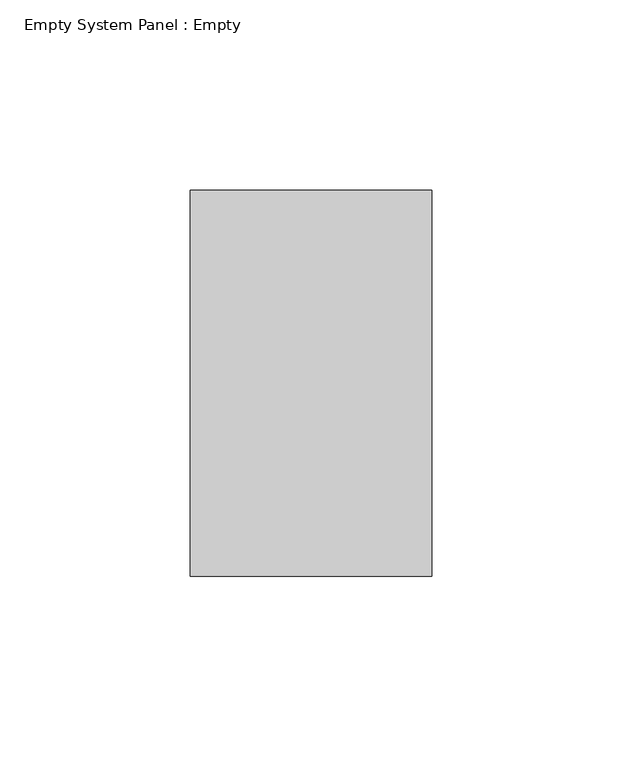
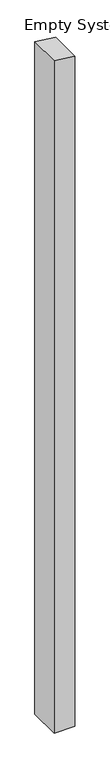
"""IFC4 building model written with IfcOpenShell, lengths in millimetres: plate geometry, Empty System Panel : Empty."""

import ifcopenshell
import ifcopenshell.guid

model = None  # the IFC model being written
_history = None  # IfcOwnerHistory: only IFC2X3 demands one
_inside = {}  # id of a spatial element -> (the spatial element, [elements in it])
_under = {}  # id of a project, library or spatial element -> (it, [spatial elements below it])
_declared = {}  # id of a project -> (the project, [libraries it declares])
_typed = {}  # id of a type object -> (the type object, [elements of that type])
_made_of = {}  # id of a material, layer set ... -> (it, [elements and type objects made of it])


def new_model(schema):
    """Start an empty IFC model of exactly this schema.

    Asked for "IFC4X3", IfcOpenShell would pick the latest addendum, in which some entities
    have other attributes; the version numbers below select the first issue.
    IFC2X3 requires an IfcOwnerHistory on every rooted entity: one is made here for all.
    """
    global model, _history
    if schema == "IFC4X3":
        model = ifcopenshell.file(schema_version=(4, 3, 0, 0))
    else:
        model = ifcopenshell.file(schema=schema)
    _inside.clear()
    _under.clear()
    _declared.clear()
    _typed.clear()
    _made_of.clear()
    _history = None
    if model.schema == "IFC2X3":
        org = make("IfcOrganization", Name="unknown")
        user = make(
            "IfcPersonAndOrganization",
            ThePerson=make("IfcPerson", FamilyName="unknown"),
            TheOrganization=org,
        )
        app = make(
            "IfcApplication",
            ApplicationDeveloper=org,
            Version="unknown",
            ApplicationFullName="unknown",
            ApplicationIdentifier="unknown",
        )
        _history = make(
            "IfcOwnerHistory",
            OwningUser=user,
            OwningApplication=app,
            ChangeAction="ADDED",
            CreationDate=0,
        )
    return model


def make(cls, **values):
    """One entity of the class cls with the attributes given. An attribute that is None is left unset."""
    return model.create_entity(
        cls, **{name: value for name, value in values.items() if value is not None}
    )


def rooted(cls, **values):
    """An entity with a GlobalId (a new one), such as an element, a storey or a relation."""
    return make(cls, GlobalId=ifcopenshell.guid.new(), OwnerHistory=_history, **values)


def si_unit(unit_type, name, prefix=None):
    """IfcSIUnit, for example si_unit("LENGTHUNIT", "METRE", prefix="MILLI")."""
    return make("IfcSIUnit", UnitType=unit_type, Prefix=prefix, Name=name)


def assignment(units):
    """IfcUnitAssignment: the units of a project."""
    return None if units is None else make("IfcUnitAssignment", Units=units)


def point(xyz):
    """IfcCartesianPoint."""
    return None if xyz is None else make("IfcCartesianPoint", Coordinates=xyz)


def direction(xyz):
    """IfcDirection."""
    return None if xyz is None else make("IfcDirection", DirectionRatios=xyz)


def frame(location, z_axis=None, x_axis=None):
    """IfcAxis2Placement3D, a coordinate frame: its origin and axes. An axis left out is left unset."""
    return make(
        "IfcAxis2Placement3D",
        Location=point(location),
        Axis=direction(z_axis),
        RefDirection=direction(x_axis),
    )


def origin():
    """The frame at (0, 0, 0) with its axes left unset."""
    return frame((0.0, 0.0, 0.0))


def place(relative_to, where):
    """IfcLocalPlacement: puts the frame where relative to a parent placement (None: the world)."""
    return make(
        "IfcLocalPlacement", PlacementRelTo=relative_to, RelativePlacement=where
    )


def context(
    kind, dimensions, precision=None, world=None, true_north=None, identifier=None
):
    """IfcGeometricRepresentationContext, for example the 3D "Model" context."""
    return make(
        "IfcGeometricRepresentationContext",
        ContextIdentifier=identifier,
        ContextType=kind,
        CoordinateSpaceDimension=dimensions,
        Precision=precision,
        WorldCoordinateSystem=world,
        TrueNorth=true_north,
    )


def project(units=None, contexts=None):
    """IfcProject with its units and contexts."""
    return rooted(
        "IfcProject",
        Name="project",
        RepresentationContexts=contexts,
        UnitsInContext=assignment(units),
    )


def spatial(cls, under=None, at=None, **own):
    """A site, building, storey or space (cls), placed at a placement, below another one or the project."""
    s = rooted(cls, ObjectPlacement=at, **own)
    if under is not None:
        _under.setdefault(under.id(), (under, []))[1].append(s)
    return s


def polyline(points):
    """IfcPolyline through the points."""
    return make("IfcPolyline", Points=[point(p) for p in points])


def outline(outer, holes=None, kind="AREA"):
    """IfcArbitraryClosedProfileDef: a profile drawn as a closed curve; with holes, ...WithVoids."""
    if holes is None:
        return make("IfcArbitraryClosedProfileDef", ProfileType=kind, OuterCurve=outer)
    return make(
        "IfcArbitraryProfileDefWithVoids",
        ProfileType=kind,
        OuterCurve=outer,
        InnerCurves=holes,
    )


def extrude(swept, where, along, depth):
    """IfcExtrudedAreaSolid: the profile swept, set in the frame where, extruded along a direction by depth."""
    return make(
        "IfcExtrudedAreaSolid",
        SweptArea=swept,
        Position=where,
        ExtrudedDirection=direction(along),
        Depth=depth,
    )


def shape(context_of_items, identifier, shape_type, items):
    """IfcShapeRepresentation: the items that make up one representation, for example the "Body"."""
    return make(
        "IfcShapeRepresentation",
        ContextOfItems=context_of_items,
        RepresentationIdentifier=identifier,
        RepresentationType=shape_type,
        Items=items,
    )


def source(mapping_origin, context_of_items, identifier, shape_type, items):
    """IfcRepresentationMap: a shape defined once, which mapped items show again and again."""
    return make(
        "IfcRepresentationMap",
        MappingOrigin=mapping_origin,
        MappedRepresentation=shape(context_of_items, identifier, shape_type, items),
    )


def transform(
    local_origin,
    x_axis=None,
    y_axis=None,
    z_axis=None,
    scale=None,
    scale2=None,
    scale3=None,
    uniform=True,
):
    """IfcCartesianTransformationOperator3D, or its non-uniform kind. x_axis, y_axis, z_axis: its Axis1, 2, 3."""
    if uniform:
        return make(
            "IfcCartesianTransformationOperator3D",
            Axis1=direction(x_axis),
            Axis2=direction(y_axis),
            LocalOrigin=point(local_origin),
            Scale=scale,
            Axis3=direction(z_axis),
        )
    return make(
        "IfcCartesianTransformationOperator3DnonUniform",
        Axis1=direction(x_axis),
        Axis2=direction(y_axis),
        LocalOrigin=point(local_origin),
        Scale=scale,
        Axis3=direction(z_axis),
        Scale2=scale2,
        Scale3=scale3,
    )


def mapped(mapping_source, mapping_target):
    """IfcMappedItem: shows the shape of a source again, moved by a transform."""
    return make(
        "IfcMappedItem", MappingSource=mapping_source, MappingTarget=mapping_target
    )


def made_of(thing, what):
    """Note that an element or type object is made of a material, layer set ...; save() writes the relation."""
    if what is not None:
        _made_of.setdefault(what.id(), (what, []))[1].append(thing)
    return thing


def element(
    cls,
    number,
    at=None,
    inside=None,
    cuts=None,
    type_object=None,
    material=None,
    context=None,
    identifier="Body",
    shape_type=None,
    held_by="IfcProductDefinitionShape",
    body=None,
    shapes=None,
    **own,
):
    """One element of the class cls, such as IfcWall. Its Tag is "e" and its number.

    at: its placement. inside: the storey or other place that contains it. cuts: it is an
    opening in that element (IfcRelVoidsElement). A single representation is given by context,
    identifier, shape_type and body (its items); several are given by shapes. held_by: the class
    of the entity that holds the representations. save() writes the other relations.
    """
    e = rooted(cls, Tag="e%d" % number, ObjectPlacement=at, **own)
    if body is not None:
        shapes = [shape(context, identifier, shape_type, body)]
    if shapes is not None:
        e.Representation = make(held_by, Representations=shapes)
    if inside is not None:
        _inside.setdefault(inside.id(), (inside, []))[1].append(e)
    if cuts is not None:
        rooted(
            "IfcRelVoidsElement", RelatingBuildingElement=cuts, RelatedOpeningElement=e
        )
    if type_object is not None:
        _typed.setdefault(type_object.id(), (type_object, []))[1].append(e)
    return made_of(e, material)


def aggregate(whole, parts):
    """IfcRelAggregates: a whole, such as a stair, and the parts it consists of."""
    return rooted("IfcRelAggregates", RelatingObject=whole, RelatedObjects=parts)


def save(model, path):
    """Write the relations noted so far, then the file.

    IfcRelAggregates (storeys below a building ...), IfcRelContainedInSpatialStructure (elements
    in a storey), IfcRelDefinesByType, IfcRelAssociatesMaterial and IfcRelDeclares: one each for
    every whole, place, type object, material and project.
    """
    for whole, parts in _under.values():
        aggregate(whole, parts)
    for where, things in _inside.values():
        rooted(
            "IfcRelContainedInSpatialStructure",
            RelatedElements=things,
            RelatingStructure=where,
        )
    for kind, things in _typed.values():
        rooted("IfcRelDefinesByType", RelatedObjects=things, RelatingType=kind)
    for what, things in _made_of.values():
        rooted("IfcRelAssociatesMaterial", RelatedObjects=things, RelatingMaterial=what)
    for by, libraries in _declared.values():
        rooted("IfcRelDeclares", RelatingContext=by, RelatedDefinitions=libraries)
    model.write(path)


def empty_system_panel_empty_4ef94449(model_context):
    return source(origin(), model_context, "Body", "SweptSolid", [
        extrude(outline(polyline([(0.0, -31.75), (0.0, 31.75), (2163.2246615, 31.75), (2170.3270205, -31.75), (0.0, -31.75)])), frame((0.0, -50.8, 0.0), z_axis=(0.0, 1.0, 0.0), x_axis=(0.0, 0.0, 1.0)), (0.0, 0.0, 1.0), 101.6),
    ])


if __name__ == "__main__":
    model = new_model("IFC4")
    model_context = context("Model", 3, world=origin())
    ifc_project = project(units=[si_unit("LENGTHUNIT", "METRE", prefix="MILLI")], contexts=[model_context])
    site = spatial("IfcSite", under=ifc_project)
    building = spatial("IfcBuilding", under=site)
    placement = place(None, origin())
    empty_system_panel_empty_shape = empty_system_panel_empty_4ef94449(model_context)
    element("IfcPlate", 1, ObjectType="Empty System Panel : Empty", at=placement, inside=building, context=model_context, shape_type="MappedRepresentation", body=[
        mapped(empty_system_panel_empty_shape, transform((0.0, 0.0, 0.0), x_axis=(1.0, 0.0, 0.0), y_axis=(0.0, 1.0, 0.0), z_axis=(0.0, 0.0, 1.0))),
    ])
    save(model, "model.ifc")
